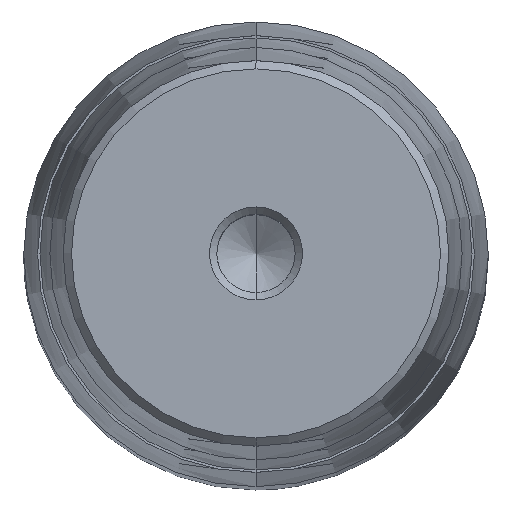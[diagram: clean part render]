
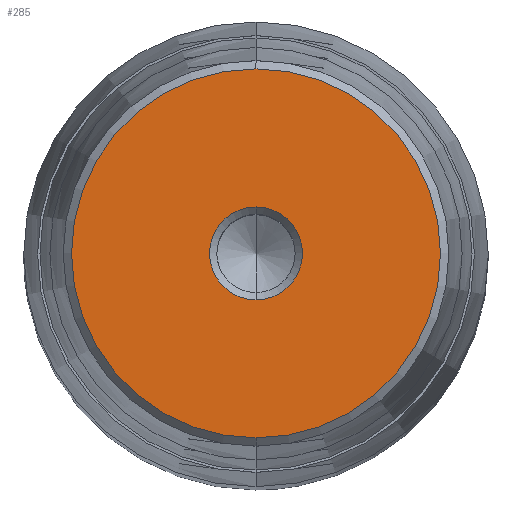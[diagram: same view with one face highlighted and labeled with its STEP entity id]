
A CAD part, top view. The second image highlights one B-rep face of the part: STEP entity #285.
In plain terms, the highlighted planar face has unit normal (0, 0, 1).
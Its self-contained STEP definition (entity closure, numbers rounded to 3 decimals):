
#164=CARTESIAN_POINT('Axis2P3D Location',(0.,0.,69.)) ;
#168=CARTESIAN_POINT('Vertex',(6.,0.,69.)) ;
#170=CARTESIAN_POINT('Vertex',(0.,-6.,69.)) ;
#173=CARTESIAN_POINT('Axis2P3D Location',(0.,0.,69.)) ;
#177=CARTESIAN_POINT('Vertex',(0.,6.,69.)) ;
#228=CARTESIAN_POINT('Axis2P3D Location',(0.,6.,69.)) ;
#233=CARTESIAN_POINT('Axis2P3D Location',(0.,0.,69.)) ;
#237=CARTESIAN_POINT('Vertex',(0.,23.825,69.)) ;
#239=CARTESIAN_POINT('Vertex',(23.825,0.,69.)) ;
#242=CARTESIAN_POINT('Axis2P3D Location',(0.,0.,69.)) ;
#246=CARTESIAN_POINT('Vertex',(-23.825,0.,69.)) ;
#249=CARTESIAN_POINT('Axis2P3D Location',(0.,0.,69.)) ;
#253=CARTESIAN_POINT('Vertex',(0.,-23.825,69.)) ;
#256=CARTESIAN_POINT('Axis2P3D Location',(0.,0.,69.)) ;
#267=CARTESIAN_POINT('Axis2P3D Location',(0.,0.,69.)) ;
#271=CARTESIAN_POINT('Vertex',(-6.,0.,69.)) ;
#274=CARTESIAN_POINT('Axis2P3D Location',(0.,0.,69.)) ;
#165=DIRECTION('Axis2P3D Direction',(0.,0.,1.)) ;
#174=DIRECTION('Axis2P3D Direction',(0.,0.,1.)) ;
#229=DIRECTION('Axis2P3D Direction',(-0.,0.,-1.)) ;
#230=DIRECTION('Axis2P3D XDirection',(0.,1.,0.)) ;
#234=DIRECTION('Axis2P3D Direction',(-0.,0.,-1.)) ;
#243=DIRECTION('Axis2P3D Direction',(-0.,0.,-1.)) ;
#250=DIRECTION('Axis2P3D Direction',(-0.,0.,-1.)) ;
#257=DIRECTION('Axis2P3D Direction',(-0.,0.,-1.)) ;
#268=DIRECTION('Axis2P3D Direction',(-0.,0.,-1.)) ;
#275=DIRECTION('Axis2P3D Direction',(-0.,0.,-1.)) ;
#166=AXIS2_PLACEMENT_3D('Circle Axis2P3D',#164,#165,$) ;
#175=AXIS2_PLACEMENT_3D('Circle Axis2P3D',#173,#174,$) ;
#231=AXIS2_PLACEMENT_3D('Plane Axis2P3D',#228,#229,#230) ;
#235=AXIS2_PLACEMENT_3D('Circle Axis2P3D',#233,#234,$) ;
#244=AXIS2_PLACEMENT_3D('Circle Axis2P3D',#242,#243,$) ;
#251=AXIS2_PLACEMENT_3D('Circle Axis2P3D',#249,#250,$) ;
#258=AXIS2_PLACEMENT_3D('Circle Axis2P3D',#256,#257,$) ;
#269=AXIS2_PLACEMENT_3D('Circle Axis2P3D',#267,#268,$) ;
#276=AXIS2_PLACEMENT_3D('Circle Axis2P3D',#274,#275,$) ;
#262=ORIENTED_EDGE('',*,*,#241,.F.) ;
#263=ORIENTED_EDGE('',*,*,#248,.F.) ;
#264=ORIENTED_EDGE('',*,*,#255,.F.) ;
#265=ORIENTED_EDGE('',*,*,#260,.F.) ;
#280=ORIENTED_EDGE('',*,*,#172,.T.) ;
#281=ORIENTED_EDGE('',*,*,#273,.T.) ;
#282=ORIENTED_EDGE('',*,*,#278,.T.) ;
#283=ORIENTED_EDGE('',*,*,#179,.T.) ;
#284=FACE_BOUND('',#279,.T.) ;
#285=ADVANCED_FACE('722-60x280x331',(#266,#284),#232,.F.) ;
#167=CIRCLE('generated circle',#166,6.) ;
#176=CIRCLE('generated circle',#175,6.) ;
#236=CIRCLE('generated circle',#235,23.825) ;
#245=CIRCLE('generated circle',#244,23.825) ;
#252=CIRCLE('generated circle',#251,23.825) ;
#259=CIRCLE('generated circle',#258,23.825) ;
#270=CIRCLE('generated circle',#269,6.) ;
#277=CIRCLE('generated circle',#276,6.) ;
#172=EDGE_CURVE('',#169,#171,#167,.F.) ;
#179=EDGE_CURVE('',#178,#169,#176,.F.) ;
#241=EDGE_CURVE('',#238,#240,#236,.T.) ;
#248=EDGE_CURVE('',#247,#238,#245,.T.) ;
#255=EDGE_CURVE('',#254,#247,#252,.T.) ;
#260=EDGE_CURVE('',#240,#254,#259,.T.) ;
#273=EDGE_CURVE('',#171,#272,#270,.T.) ;
#278=EDGE_CURVE('',#272,#178,#277,.T.) ;
#261=EDGE_LOOP('',(#262,#263,#264,#265)) ;
#279=EDGE_LOOP('',(#280,#281,#282,#283)) ;
#266=FACE_OUTER_BOUND('',#261,.T.) ;
#232=PLANE('Plane',#231) ;
#169=VERTEX_POINT('',#168) ;
#171=VERTEX_POINT('',#170) ;
#178=VERTEX_POINT('',#177) ;
#238=VERTEX_POINT('',#237) ;
#240=VERTEX_POINT('',#239) ;
#247=VERTEX_POINT('',#246) ;
#254=VERTEX_POINT('',#253) ;
#272=VERTEX_POINT('',#271) ;
